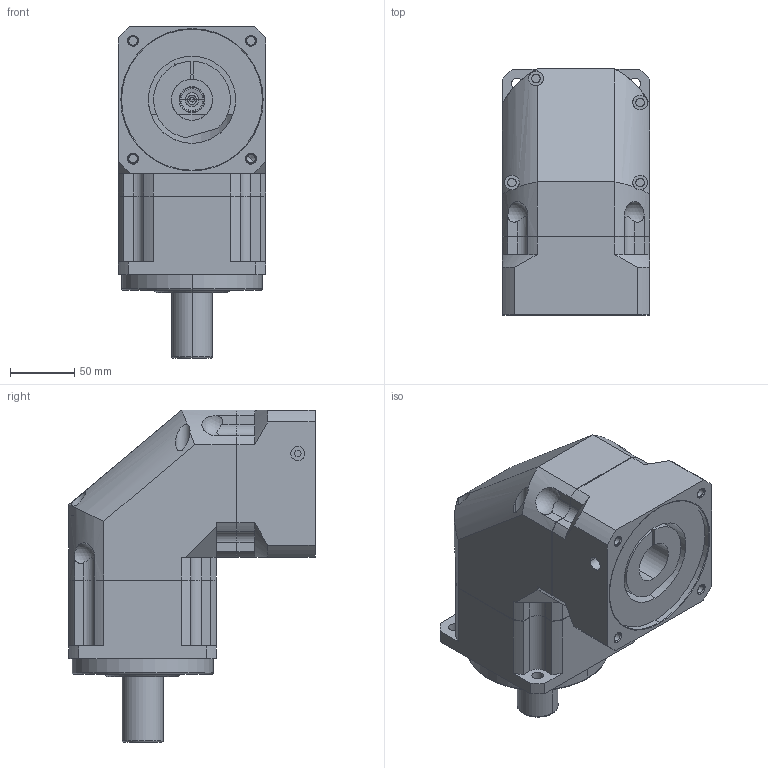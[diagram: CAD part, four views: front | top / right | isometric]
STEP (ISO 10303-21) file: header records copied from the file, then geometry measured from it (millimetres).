
FILE_DESCRIPTION((''),'2;1');
FILE_NAME('ABR1151-P4040102_ASM','2006-03-16T',('D00036'),(''),'PRO/ENGINEER BY PARAMETRIC TECHNOLOGY CORPORATION, 2001280','PRO/ENGINEER BY PARAMETRIC TECHNOLOGY CORPORATION, 2001280','');
FILE_SCHEMA(('CONFIG_CONTROL_DESIGN'));
Length unit declared in the file: millimetre
Products named in the file (4): AB1151; PD040001; P4040102; ABR1151-P4040102_ASM
Assembly tree (3 placements, depth 2):
  ABR1151-P4040102_ASM
    AB1151
    PD040001
    P4040102
Bounding box: 115 x 192 x 259 mm (x, y, z)
Volume: 2274440.2 mm3; surface area: 262003.6 mm2
Topology: 4 solids, 15 shells, 433 faces, 1049 edges, 647 vertices
Faces by surface type: cylinder 165, plane 156, cone 88, torus 20, sphere 4
Entity records: 13204 total; most frequent: CARTESIAN_POINT 2766, DIRECTION 2318, ORIENTED_EDGE 2022, EDGE_CURVE 1035, AXIS2_PLACEMENT_3D 919, VERTEX_POINT 647, EDGE_LOOP 492, VECTOR 480
